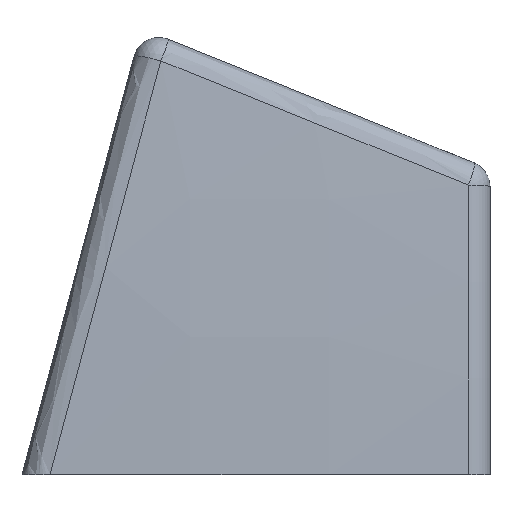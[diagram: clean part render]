
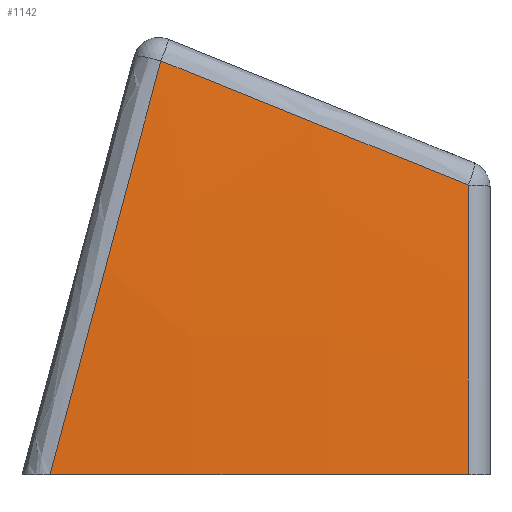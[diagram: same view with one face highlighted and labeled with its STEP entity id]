
A CAD part, left-side view. The second image highlights one B-rep face of the part: STEP entity #1142.
In plain terms, the highlighted free-form (B-spline) face has degree [3, 3] with [4, 4] control points.
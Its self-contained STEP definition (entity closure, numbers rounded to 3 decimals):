
#178=CARTESIAN_POINT('',(-23.821,43.243,
0.));
#189=CARTESIAN_POINT('',(475.04,76.972,0.));
#190=DIRECTION('',(0.,0.,1.));
#191=DIRECTION('',(-0.998,-0.067,0.));
#192=AXIS2_PLACEMENT_3D('',#189,#190,#191);
#194=CARTESIAN_POINT('',(481.798,2.126,0.));
#195=DIRECTION('',(0.,-1.,0.));
#196=DIRECTION('',(-0.998,0.,0.057));
#197=AXIS2_PLACEMENT_3D('',#194,#195,#196);
#199=CARTESIAN_POINT('',(-23.821,43.243,
0.));
#200=CARTESIAN_POINT('',(-23.739,42.03,4.526));
#201=CARTESIAN_POINT('',(-23.445,39.605,13.576));
#202=CARTESIAN_POINT('',(-22.612,35.971,27.138));
#203=CARTESIAN_POINT('',(-21.797,33.554,36.159));
#204=CARTESIAN_POINT('',(-21.324,32.347,40.663));
#206=CARTESIAN_POINT('',(-21.324,32.347,40.663));
#207=CARTESIAN_POINT('',(-21.196,30.104,39.757));
#208=CARTESIAN_POINT('',(-20.909,25.709,37.982));
#209=CARTESIAN_POINT('',(-20.4,19.392,35.43));
#210=CARTESIAN_POINT('',(-19.826,13.348,32.988));
#211=CARTESIAN_POINT('',(-19.197,7.578,30.657));
#212=CARTESIAN_POINT('',(-18.748,3.913,29.176));
#213=CARTESIAN_POINT('',(-18.518,2.126,28.454));
#695=CARTESIAN_POINT('',(-19.327,2.126,0.));
#697=VERTEX_POINT('',#695);
#698=CARTESIAN_POINT('',(-18.518,2.126,28.454));
#699=VERTEX_POINT('',#698);
#704=VERTEX_POINT('',#206);
#705=VERTEX_POINT('',#178);
#1119=CARTESIAN_POINT('',(-22.166,44.069,41.55));
#1120=CARTESIAN_POINT('',(-21.226,29.752,41.472));
#1121=CARTESIAN_POINT('',(-19.672,15.49,41.344));
#1122=CARTESIAN_POINT('',(-17.508,1.308,41.166));
#1123=CARTESIAN_POINT('',(-23.328,44.069,27.456));
#1124=CARTESIAN_POINT('',(-22.385,29.752,27.405));
#1125=CARTESIAN_POINT('',(-20.828,15.49,27.32));
#1126=CARTESIAN_POINT('',(-18.659,1.308,27.202));
#1127=CARTESIAN_POINT('',(-23.899,44.069,13.326));
#1128=CARTESIAN_POINT('',(-22.954,29.752,13.301));
#1129=CARTESIAN_POINT('',(-21.395,15.49,13.26));
#1130=CARTESIAN_POINT('',(-19.224,1.308,13.203));
#1131=CARTESIAN_POINT('',(-23.876,44.069,
-0.816));
#1132=CARTESIAN_POINT('',(-22.932,29.752,
-0.814));
#1133=CARTESIAN_POINT('',(-21.372,15.49,
-0.812));
#1134=CARTESIAN_POINT('',(-19.201,1.308,
-0.808));
#1135=(BOUNDED_SURFACE()B_SPLINE_SURFACE(3,3,((#1119,#1120,#1121,#1122),(#1123,
#1124,#1125,#1126),(#1127,#1128,#1129,#1130),(#1131,#1132,#1133,#1134)),
.UNSPECIFIED.,.F.,.F.,.F.)B_SPLINE_SURFACE_WITH_KNOTS((4,4),(4,4),(0.,1.),(
0.,1.),.UNSPECIFIED.)GEOMETRIC_REPRESENTATION_ITEM()RATIONAL_B_SPLINE_SURFACE(((1.001,1.,1.,1.001),(
1.,1.,1.,1.),(
1.,1.,1.,1.),(
1.001,1.,1.,1.001)))REPRESENTATION_ITEM('')SURFACE());
#1136=ORIENTED_EDGE('',*,*,#1112,.T.);
#1137=ORIENTED_EDGE('',*,*,#1101,.F.);
#1138=ORIENTED_EDGE('',*,*,#1079,.T.);
#1139=ORIENTED_EDGE('',*,*,#941,.T.);
#1140=EDGE_LOOP('',(#1136,#1137,#1138,#1139));
#1141=FACE_OUTER_BOUND('',#1140,.F.);
#193=CIRCLE('',#192,500.);
#198=CIRCLE('',#197,501.125);
#205=B_SPLINE_CURVE_WITH_KNOTS('',3,(#199,#200,#201,#202,#203,#204),
.UNSPECIFIED.,.F.,.F.,(4,1,1,4),(0.,0.333,0.667,1.),
.UNSPECIFIED.);
#214=B_SPLINE_CURVE_WITH_KNOTS('',3,(#206,#207,#208,#209,#210,#211,#212,#213),
.UNSPECIFIED.,.F.,.F.,(4,1,1,1,1,4),(0.,0.2,0.4,0.6,0.8,1.),
.UNSPECIFIED.);
#941=EDGE_CURVE('',#704,#699,#214,.T.);
#1079=EDGE_CURVE('',#705,#704,#205,.T.);
#1101=EDGE_CURVE('',#705,#697,#193,.T.);
#1112=EDGE_CURVE('',#699,#697,#198,.T.);
#1142=ADVANCED_FACE('',(#1141),#1135,.T.);
